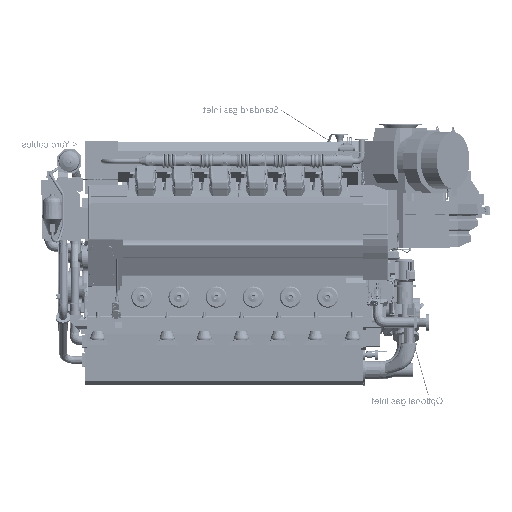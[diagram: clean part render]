
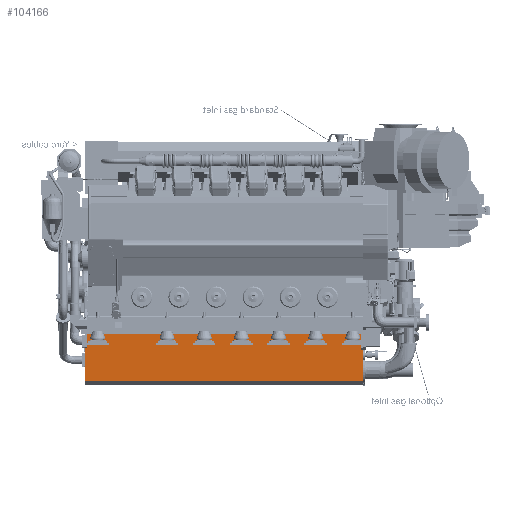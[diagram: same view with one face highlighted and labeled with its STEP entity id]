
A CAD part, front view. The second image highlights one B-rep face of the part: STEP entity #104166.
In plain terms, the highlighted planar face has unit normal (0, -0.999, -0.052).
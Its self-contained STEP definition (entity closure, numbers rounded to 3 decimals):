
#34547=LINE('',#621403,#56691);
#34554=LINE('',#621428,#56698);
#34573=LINE('',#621474,#56717);
#34574=LINE('',#621478,#56718);
#34585=LINE('',#621514,#56729);
#34586=LINE('',#621516,#56730);
#34587=LINE('',#621517,#56731);
#34588=LINE('',#621518,#56732);
#34589=LINE('',#621519,#56733);
#34590=LINE('',#621521,#56734);
#56691=VECTOR('',#396870,1.);
#56698=VECTOR('',#396889,1.);
#56717=VECTOR('',#396918,1.);
#56718=VECTOR('',#396921,1.);
#56729=VECTOR('',#396948,1.);
#56730=VECTOR('',#396949,1.);
#56731=VECTOR('',#396950,1.);
#56732=VECTOR('',#396951,1.);
#56733=VECTOR('',#396952,1.);
#56734=VECTOR('',#396953,1.);
#73444=PLANE('',#321374);
#86660=FACE_OUTER_BOUND('',#140363,.T.);
#104166=ADVANCED_FACE('',(#86660),#73444,.F.);
#140363=EDGE_LOOP('',(#214894,#214895,#214896,#214897,#214898,#214899,#214900,
#214901,#214902,#214903));
#214894=ORIENTED_EDGE('',*,*,#282523,.F.);
#214895=ORIENTED_EDGE('',*,*,#282524,.T.);
#214896=ORIENTED_EDGE('',*,*,#282468,.F.);
#214897=ORIENTED_EDGE('',*,*,#282525,.T.);
#214898=ORIENTED_EDGE('',*,*,#282505,.T.);
#214899=ORIENTED_EDGE('',*,*,#282526,.T.);
#214900=ORIENTED_EDGE('',*,*,#282503,.T.);
#214901=ORIENTED_EDGE('',*,*,#282527,.F.);
#214902=ORIENTED_EDGE('',*,*,#282528,.F.);
#214903=ORIENTED_EDGE('',*,*,#282480,.F.);
#244253=VERTEX_POINT('',#621402);
#244254=VERTEX_POINT('',#621404);
#244265=VERTEX_POINT('',#621427);
#244266=VERTEX_POINT('',#621429);
#244287=VERTEX_POINT('',#621473);
#244288=VERTEX_POINT('',#621475);
#244289=VERTEX_POINT('',#621477);
#244290=VERTEX_POINT('',#621479);
#244307=VERTEX_POINT('',#621515);
#244308=VERTEX_POINT('',#621520);
#282468=EDGE_CURVE('',#244253,#244254,#34547,.T.);
#282480=EDGE_CURVE('',#244265,#244266,#34554,.T.);
#282503=EDGE_CURVE('',#244288,#244287,#34573,.T.);
#282505=EDGE_CURVE('',#244290,#244289,#34574,.T.);
#282523=EDGE_CURVE('',#244307,#244265,#34585,.T.);
#282524=EDGE_CURVE('',#244307,#244254,#34586,.T.);
#282525=EDGE_CURVE('',#244253,#244290,#34587,.T.);
#282526=EDGE_CURVE('',#244289,#244288,#34588,.T.);
#282527=EDGE_CURVE('',#244308,#244287,#34589,.T.);
#282528=EDGE_CURVE('',#244266,#244308,#34590,.T.);
#321374=AXIS2_PLACEMENT_3D('',#621522,#396954,#396955);
#396870=DIRECTION('',(0.,-0.052,0.999));
#396889=DIRECTION('',(1.,0.,0.));
#396918=DIRECTION('',(0.,-0.052,0.999));
#396921=DIRECTION('',(0.,-0.052,0.999));
#396948=DIRECTION('',(0.,-0.052,0.999));
#396949=DIRECTION('',(-1.,0.,0.));
#396950=DIRECTION('',(1.,0.,0.));
#396951=DIRECTION('',(0.,-0.052,0.999));
#396952=DIRECTION('',(1.,0.,0.));
#396953=DIRECTION('',(0.,0.052,-0.999));
#396954=DIRECTION('',(0.,0.999,0.052));
#396955=DIRECTION('',(0.,-0.052,0.999));
#621402=CARTESIAN_POINT('',(-4190.,-519.799,-1402.936));
#621403=CARTESIAN_POINT('',(-4190.,-519.799,-1402.936));
#621404=CARTESIAN_POINT('',(-4190.,-545.633,-909.988));
#621427=CARTESIAN_POINT('',(-4170.,-556.9,-695.));
#621428=CARTESIAN_POINT('',(-4190.,-556.9,-695.));
#621429=CARTESIAN_POINT('',(-30.,-556.9,-695.));
#621473=CARTESIAN_POINT('',(0.,-543.66,-947.642));
#621474=CARTESIAN_POINT('',(0.,-519.799,-1402.936));
#621475=CARTESIAN_POINT('',(0.,-542.122,-976.978));
#621477=CARTESIAN_POINT('',(0.,-537.389,-1067.285));
#621478=CARTESIAN_POINT('',(0.,-519.799,-1402.936));
#621479=CARTESIAN_POINT('',(0.,-519.799,-1402.936));
#621514=CARTESIAN_POINT('',(-4170.,-519.799,-1402.936));
#621515=CARTESIAN_POINT('',(-4170.,-545.633,-909.988));
#621516=CARTESIAN_POINT('',(-4170.,-545.633,-909.988));
#621517=CARTESIAN_POINT('',(-4190.,-519.799,-1402.936));
#621518=CARTESIAN_POINT('',(0.,-519.799,-1402.936));
#621519=CARTESIAN_POINT('',(-30.,-543.66,-947.642));
#621520=CARTESIAN_POINT('',(-30.,-543.66,-947.642));
#621521=CARTESIAN_POINT('',(-30.,-556.9,-695.));
#621522=CARTESIAN_POINT('',(-4190.,-519.799,-1402.936));
